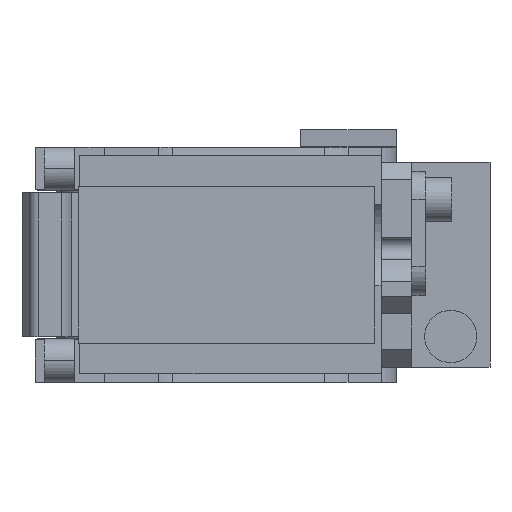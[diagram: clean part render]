
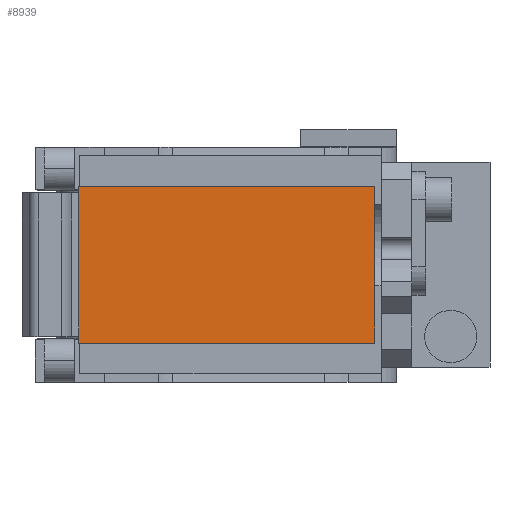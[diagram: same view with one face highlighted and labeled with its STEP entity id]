
A CAD part, front view. The second image highlights one B-rep face of the part: STEP entity #8939.
In plain terms, the highlighted planar face has unit normal (0, -1, 0).
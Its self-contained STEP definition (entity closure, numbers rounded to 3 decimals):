
#626 = LINE ( 'NONE', #13133, #12482 ) ;
#828 = DIRECTION ( 'NONE',  ( 1., 0., 0. ) ) ;
#1048 = VECTOR ( 'NONE', #828, 1000. ) ;
#1180 = LINE ( 'NONE', #13709, #4176 ) ;
#2046 = DIRECTION ( 'NONE',  ( 0., 0., 1. ) ) ;
#2176 = EDGE_CURVE ( 'NONE', #9682, #11000, #1180, .T. ) ;
#2748 = ORIENTED_EDGE ( 'NONE', *, *, #10667, .T. ) ;
#2937 = ORIENTED_EDGE ( 'NONE', *, *, #8576, .T. ) ;
#3220 = AXIS2_PLACEMENT_3D ( 'NONE', #8916, #12219, #13357 ) ;
#4176 = VECTOR ( 'NONE', #10050, 1000. ) ;
#4191 = DIRECTION ( 'NONE',  ( -1., 0., 0. ) ) ;
#4208 = CARTESIAN_POINT ( 'NONE',  ( -6., -233., 18. ) ) ;
#4621 = VERTEX_POINT ( 'NONE', #7525 ) ;
#4869 = CARTESIAN_POINT ( 'NONE',  ( -6., -233., -18. ) ) ;
#5602 = CARTESIAN_POINT ( 'NONE',  ( 62., -233., 18. ) ) ;
#6288 = LINE ( 'NONE', #10741, #1048 ) ;
#6341 = EDGE_LOOP ( 'NONE', ( #9186, #2748, #12527, #2937 ) ) ;
#7057 = VECTOR ( 'NONE', #2046, 1000. ) ;
#7525 = CARTESIAN_POINT ( 'NONE',  ( 62., -233., 18. ) ) ;
#7716 = LINE ( 'NONE', #5602, #7057 ) ;
#8576 = EDGE_CURVE ( 'NONE', #4621, #9682, #626, .T. ) ;
#8916 = CARTESIAN_POINT ( 'NONE',  ( 0., -233., 0. ) ) ;
#8939 = ADVANCED_FACE ( 'NONE', ( #13074 ), #9817, .T. ) ;
#9186 = ORIENTED_EDGE ( 'NONE', *, *, #2176, .T. ) ;
#9682 = VERTEX_POINT ( 'NONE', #4208 ) ;
#9817 = PLANE ( 'NONE',  #3220 ) ;
#10050 = DIRECTION ( 'NONE',  ( 0., 0., -1. ) ) ;
#10667 = EDGE_CURVE ( 'NONE', #11000, #12361, #6288, .T. ) ;
#10741 = CARTESIAN_POINT ( 'NONE',  ( -6., -233., -18. ) ) ;
#11000 = VERTEX_POINT ( 'NONE', #4869 ) ;
#11662 = EDGE_CURVE ( 'NONE', #12361, #4621, #7716, .T. ) ;
#12219 = DIRECTION ( 'NONE',  ( 0., -1., 0. ) ) ;
#12361 = VERTEX_POINT ( 'NONE', #12439 ) ;
#12439 = CARTESIAN_POINT ( 'NONE',  ( 62., -233., -18. ) ) ;
#12482 = VECTOR ( 'NONE', #4191, 1000. ) ;
#12527 = ORIENTED_EDGE ( 'NONE', *, *, #11662, .T. ) ;
#13074 = FACE_OUTER_BOUND ( 'NONE', #6341, .T. ) ;
#13133 = CARTESIAN_POINT ( 'NONE',  ( -6., -233., 18. ) ) ;
#13357 = DIRECTION ( 'NONE',  ( 0., 0., -1. ) ) ;
#13709 = CARTESIAN_POINT ( 'NONE',  ( -6., -233., 18. ) ) ;
